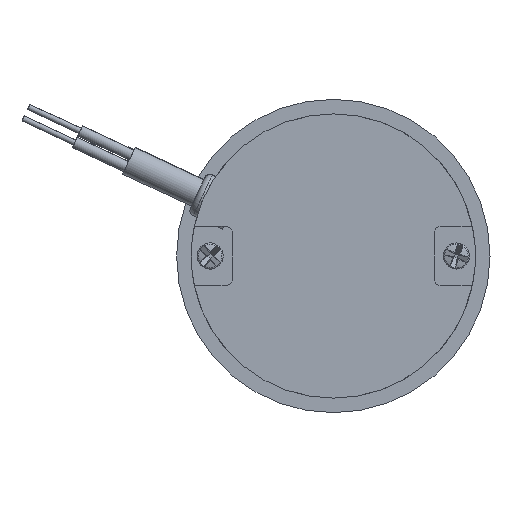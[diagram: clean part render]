
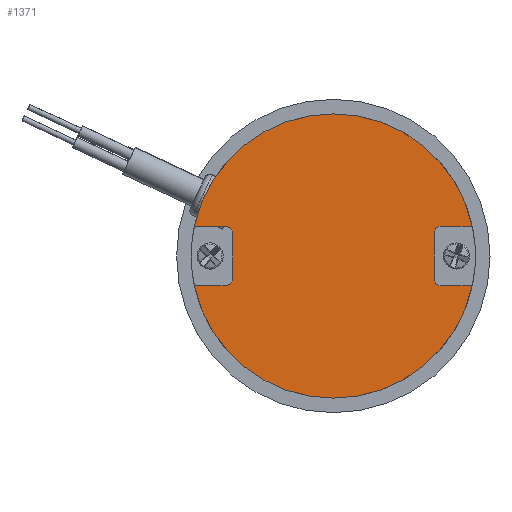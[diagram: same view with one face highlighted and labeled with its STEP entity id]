
A CAD part, left-side view. The second image highlights one B-rep face of the part: STEP entity #1371.
In plain terms, the highlighted planar face has unit normal (-1, 0, 0).
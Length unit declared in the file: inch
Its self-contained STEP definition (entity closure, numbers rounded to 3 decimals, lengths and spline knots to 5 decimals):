
#80 = CARTESIAN_POINT ( 'NONE',  ( -7.72717, -0.57087, -0.11811 ) ) ;
#178 = DIRECTION ( 'NONE',  ( 0., 0., -1. ) ) ;
#182 = ORIENTED_EDGE ( 'NONE', *, *, #8531, .F. ) ;
#285 = CARTESIAN_POINT ( 'NONE',  ( -7.72717, -0.5315, 0. ) ) ;
#449 = DIRECTION ( 'NONE',  ( 0., -1., 0. ) ) ;
#471 = VECTOR ( 'NONE', #5296, 39.37008 ) ;
#548 = CARTESIAN_POINT ( 'NONE',  ( -7.72717, -0.57087, -0.15748 ) ) ;
#579 = CARTESIAN_POINT ( 'NONE',  ( -7.72717, 0., 0. ) ) ;
#596 = CARTESIAN_POINT ( 'NONE',  ( -7.72717, 0., 0.75 ) ) ;
#600 = ORIENTED_EDGE ( 'NONE', *, *, #4356, .F. ) ;
#640 = VERTEX_POINT ( 'NONE', #5665 ) ;
#656 = VERTEX_POINT ( 'NONE', #4214 ) ;
#660 = DIRECTION ( 'NONE',  ( 1., 0., 0. ) ) ;
#930 = LINE ( 'NONE', #5329, #471 ) ;
#958 = CARTESIAN_POINT ( 'NONE',  ( -7.72717, 0., 0. ) ) ;
#1040 = AXIS2_PLACEMENT_3D ( 'NONE', #5931, #2919, #7956 ) ;
#1041 = DIRECTION ( 'NONE',  ( 0., 0., -1. ) ) ;
#1257 = CARTESIAN_POINT ( 'NONE',  ( -7.72717, 0.73328, 0.15748 ) ) ;
#1358 = EDGE_CURVE ( 'NONE', #2808, #2248, #930, .T. ) ;
#1371 = ADVANCED_FACE ( 'NONE', ( #5525 ), #7430, .F. ) ;
#1424 = EDGE_CURVE ( 'NONE', #7692, #7694, #8001, .T. ) ;
#1469 = DIRECTION ( 'NONE',  ( -1., 0., 0. ) ) ;
#1500 = ORIENTED_EDGE ( 'NONE', *, *, #1424, .F. ) ;
#1662 = ORIENTED_EDGE ( 'NONE', *, *, #4448, .F. ) ;
#1863 = EDGE_CURVE ( 'NONE', #2651, #656, #6387, .T. ) ;
#1882 = CIRCLE ( 'NONE', #2515, 0.75 ) ;
#1914 = ORIENTED_EDGE ( 'NONE', *, *, #7275, .T. ) ;
#2083 = AXIS2_PLACEMENT_3D ( 'NONE', #4436, #3703, #178 ) ;
#2108 = CIRCLE ( 'NONE', #4935, 0.03937 ) ;
#2146 = ORIENTED_EDGE ( 'NONE', *, *, #8262, .F. ) ;
#2150 = VECTOR ( 'NONE', #5146, 39.37008 ) ;
#2248 = VERTEX_POINT ( 'NONE', #4243 ) ;
#2308 = ORIENTED_EDGE ( 'NONE', *, *, #2726, .T. ) ;
#2414 = DIRECTION ( 'NONE',  ( 1., 0., 0. ) ) ;
#2467 = ORIENTED_EDGE ( 'NONE', *, *, #8626, .F. ) ;
#2505 = CARTESIAN_POINT ( 'NONE',  ( -7.72717, 0., -0.15748 ) ) ;
#2515 = AXIS2_PLACEMENT_3D ( 'NONE', #958, #2414, #8088 ) ;
#2552 = CARTESIAN_POINT ( 'NONE',  ( -7.72717, 0.73328, -0.15748 ) ) ;
#2651 = VERTEX_POINT ( 'NONE', #4789 ) ;
#2726 = EDGE_CURVE ( 'NONE', #2651, #640, #5866, .T. ) ;
#2775 = CARTESIAN_POINT ( 'NONE',  ( -7.72717, -0.73328, -0.15748 ) ) ;
#2808 = VERTEX_POINT ( 'NONE', #3578 ) ;
#2890 = ORIENTED_EDGE ( 'NONE', *, *, #2936, .F. ) ;
#2898 = VECTOR ( 'NONE', #1041, 39.37008 ) ;
#2919 = DIRECTION ( 'NONE',  ( 1., 0., 0. ) ) ;
#2925 = AXIS2_PLACEMENT_3D ( 'NONE', #6414, #660, #7164 ) ;
#2936 = EDGE_CURVE ( 'NONE', #8652, #9016, #3372, .T. ) ;
#3032 = EDGE_CURVE ( 'NONE', #2808, #7403, #3484, .T. ) ;
#3372 = CIRCLE ( 'NONE', #2083, 0.75 ) ;
#3414 = CARTESIAN_POINT ( 'NONE',  ( -7.72717, 0., 0.15748 ) ) ;
#3484 = CIRCLE ( 'NONE', #1040, 0.03937 ) ;
#3496 = CARTESIAN_POINT ( 'NONE',  ( -7.72717, -0.73328, 0.15748 ) ) ;
#3578 = CARTESIAN_POINT ( 'NONE',  ( -7.72717, 0.5315, -0.11811 ) ) ;
#3676 = CARTESIAN_POINT ( 'NONE',  ( -7.72717, 0., -0.15748 ) ) ;
#3703 = DIRECTION ( 'NONE',  ( 1., 0., 0. ) ) ;
#3726 = AXIS2_PLACEMENT_3D ( 'NONE', #4113, #4853, #4049 ) ;
#3981 = VERTEX_POINT ( 'NONE', #2552 ) ;
#4049 = DIRECTION ( 'NONE',  ( 0., 0., 1. ) ) ;
#4075 = DIRECTION ( 'NONE',  ( 0., 1., 0. ) ) ;
#4076 = LINE ( 'NONE', #3676, #2150 ) ;
#4113 = CARTESIAN_POINT ( 'NONE',  ( -7.72717, -0.57087, 0.11811 ) ) ;
#4140 = CARTESIAN_POINT ( 'NONE',  ( -7.72717, 0.57087, -0.15748 ) ) ;
#4163 = VECTOR ( 'NONE', #449, 39.37008 ) ;
#4214 = CARTESIAN_POINT ( 'NONE',  ( -7.72717, -0.5315, -0.11811 ) ) ;
#4243 = CARTESIAN_POINT ( 'NONE',  ( -7.72717, 0.5315, 0.11811 ) ) ;
#4282 = VECTOR ( 'NONE', #4075, 39.37008 ) ;
#4356 = EDGE_CURVE ( 'NONE', #656, #7692, #2108, .T. ) ;
#4436 = CARTESIAN_POINT ( 'NONE',  ( -7.72717, 0., 0. ) ) ;
#4448 = EDGE_CURVE ( 'NONE', #9016, #9073, #1882, .T. ) ;
#4529 = DIRECTION ( 'NONE',  ( 0., 0., 1. ) ) ;
#4576 = EDGE_CURVE ( 'NONE', #640, #9073, #7211, .T. ) ;
#4739 = ORIENTED_EDGE ( 'NONE', *, *, #1863, .F. ) ;
#4789 = CARTESIAN_POINT ( 'NONE',  ( -7.72717, -0.5315, 0.11811 ) ) ;
#4853 = DIRECTION ( 'NONE',  ( 1., 0., 0. ) ) ;
#4935 = AXIS2_PLACEMENT_3D ( 'NONE', #80, #1469, #6502 ) ;
#5146 = DIRECTION ( 'NONE',  ( 0., 1., 0. ) ) ;
#5163 = ORIENTED_EDGE ( 'NONE', *, *, #4576, .T. ) ;
#5220 = VERTEX_POINT ( 'NONE', #7080 ) ;
#5296 = DIRECTION ( 'NONE',  ( 0., 0., 1. ) ) ;
#5329 = CARTESIAN_POINT ( 'NONE',  ( -7.72717, 0.5315, 0. ) ) ;
#5461 = EDGE_LOOP ( 'NONE', ( #1914, #2467, #2146, #1500, #600, #4739, #2308, #5163, #1662, #2890, #182, #6082, #5507, #9008 ) ) ;
#5507 = ORIENTED_EDGE ( 'NONE', *, *, #1358, .F. ) ;
#5525 = FACE_OUTER_BOUND ( 'NONE', #5461, .T. ) ;
#5665 = CARTESIAN_POINT ( 'NONE',  ( -7.72717, -0.57087, 0.15748 ) ) ;
#5705 = CIRCLE ( 'NONE', #8617, 0.75 ) ;
#5789 = LINE ( 'NONE', #3414, #4282 ) ;
#5866 = CIRCLE ( 'NONE', #3726, 0.03937 ) ;
#5908 = CARTESIAN_POINT ( 'NONE',  ( -7.72717, 0.57087, 0.15748 ) ) ;
#5931 = CARTESIAN_POINT ( 'NONE',  ( -7.72717, 0.57087, -0.11811 ) ) ;
#6082 = ORIENTED_EDGE ( 'NONE', *, *, #6561, .F. ) ;
#6280 = CIRCLE ( 'NONE', #2925, 0.75 ) ;
#6387 = LINE ( 'NONE', #285, #2898 ) ;
#6414 = CARTESIAN_POINT ( 'NONE',  ( -7.72717, 0., 0. ) ) ;
#6502 = DIRECTION ( 'NONE',  ( 0., 0., 1. ) ) ;
#6561 = EDGE_CURVE ( 'NONE', #2248, #7336, #9052, .T. ) ;
#6663 = DIRECTION ( 'NONE',  ( 1., 0., 0. ) ) ;
#6883 = AXIS2_PLACEMENT_3D ( 'NONE', #8831, #6663, #8117 ) ;
#7041 = DIRECTION ( 'NONE',  ( 1., 0., 0. ) ) ;
#7080 = CARTESIAN_POINT ( 'NONE',  ( -7.72717, 0., -0.75 ) ) ;
#7164 = DIRECTION ( 'NONE',  ( 0., 0., -1. ) ) ;
#7211 = LINE ( 'NONE', #7654, #8681 ) ;
#7275 = EDGE_CURVE ( 'NONE', #7403, #3981, #4076, .T. ) ;
#7336 = VERTEX_POINT ( 'NONE', #5908 ) ;
#7403 = VERTEX_POINT ( 'NONE', #4140 ) ;
#7430 = PLANE ( 'NONE',  #6883 ) ;
#7654 = CARTESIAN_POINT ( 'NONE',  ( -7.72717, 0., 0.15748 ) ) ;
#7692 = VERTEX_POINT ( 'NONE', #548 ) ;
#7694 = VERTEX_POINT ( 'NONE', #2775 ) ;
#7767 = DIRECTION ( 'NONE',  ( 0., 0., -1. ) ) ;
#7956 = DIRECTION ( 'NONE',  ( 0., 0., 1. ) ) ;
#8001 = LINE ( 'NONE', #2505, #4163 ) ;
#8088 = DIRECTION ( 'NONE',  ( 0., 0., -1. ) ) ;
#8117 = DIRECTION ( 'NONE',  ( 0., 0., -1. ) ) ;
#8124 = CARTESIAN_POINT ( 'NONE',  ( -7.72717, 0.57087, 0.11811 ) ) ;
#8262 = EDGE_CURVE ( 'NONE', #7694, #5220, #6280, .T. ) ;
#8405 = DIRECTION ( 'NONE',  ( 0., -1., 0. ) ) ;
#8531 = EDGE_CURVE ( 'NONE', #7336, #8652, #5789, .T. ) ;
#8617 = AXIS2_PLACEMENT_3D ( 'NONE', #579, #7041, #7767 ) ;
#8626 = EDGE_CURVE ( 'NONE', #5220, #3981, #5705, .T. ) ;
#8652 = VERTEX_POINT ( 'NONE', #1257 ) ;
#8681 = VECTOR ( 'NONE', #8405, 39.37008 ) ;
#8831 = CARTESIAN_POINT ( 'NONE',  ( -7.72717, 0., 0. ) ) ;
#8867 = DIRECTION ( 'NONE',  ( -1., 0., 0. ) ) ;
#8973 = AXIS2_PLACEMENT_3D ( 'NONE', #8124, #8867, #4529 ) ;
#9008 = ORIENTED_EDGE ( 'NONE', *, *, #3032, .T. ) ;
#9016 = VERTEX_POINT ( 'NONE', #596 ) ;
#9052 = CIRCLE ( 'NONE', #8973, 0.03937 ) ;
#9073 = VERTEX_POINT ( 'NONE', #3496 ) ;
